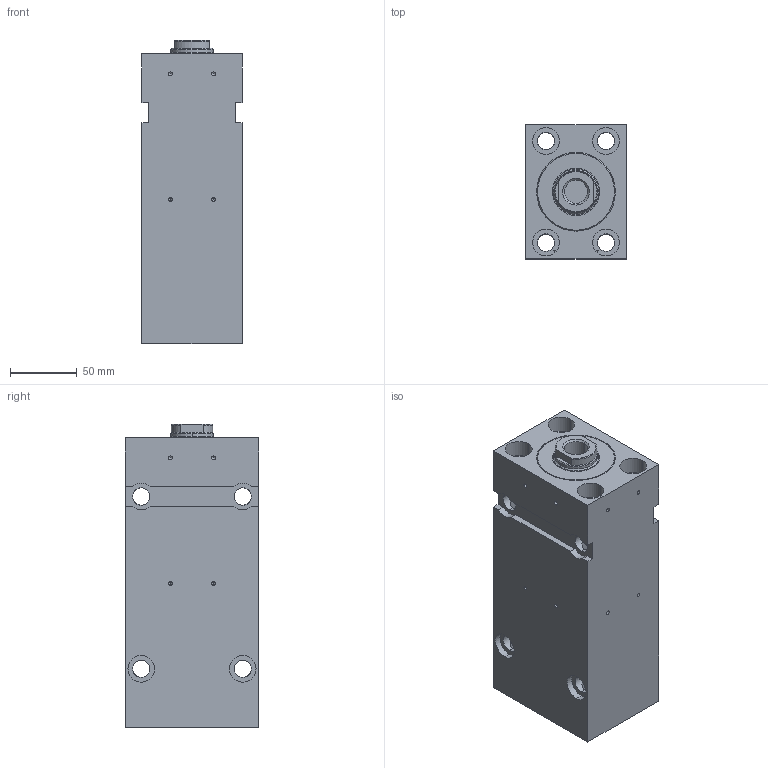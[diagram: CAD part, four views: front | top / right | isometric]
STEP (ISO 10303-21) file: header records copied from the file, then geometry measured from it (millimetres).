
FILE_DESCRIPTION (( 'STEP AP203' ), '1' );
FILE_NAME ('BZ_320.50_32.78.201.120 PP.KBC44__DH_0_.STEP', '2022-05-09T16:44:23', ( '' ), ( '' ), 'SwSTEP 2.0', 'SolidWorks 2020', '' );
FILE_SCHEMA (( 'CONFIG_CONTROL_DESIGN' ));
Length unit declared in the file: millimetre
Products named in the file (7): _Verschraubung komplett mit Dichtung f. BZ_RZ_FZ.50_32.201, Art.-Nr._ 042986(201)^BZ_320.50_32.78.201.120 PP.KBC44__DH_0_(2)_BZ_320.50_32.78.201.120 PP.KBC44__DH_0_; BZ_320.50_32.78.201.120 PP.KBC44__DH_0_; _Dichtungssatz f. BZ_RZ_FZ.50_32.xx.201.120 Artikelnr._ 053426(0)^BZ_320.50_32.78.201.120 PP.KBC44__DH_0_(2)_BZ_320.50_32.78.201.120 PP.KBC44__DH_0_; _Verschraubung hinten komplett mit Dichtung f. BZ500.50_32 LLL^BZ_320.50_32.78.201.120 PP.KBC44__DH_0_(2)_BZ_320.50_32.78.201.120 PP.KBC44__DH_0_; _Kolbenstange komplett f. BZ_RZ_FZ.50_32.xx.201.120(0_11 1 20 2.5 0 0 10 30 0 0 0)0^BZ_320.50_32.78.201.120 PP.KBC44__DH_0_(2)_BZ_320.50_32.78.201.120 PP.KBC44__DH_0_; _Gehaeuse f. BZ320.50_32.Fehler in IDBF.201.120Fehler in IDNT00(1344frei278000))7^BZ_320.50_32.78.201.120 PP.KBC44__DH_0_(2)_BZ_320.50_32.78.201.120 PP.KBC44__DH_0_; BZ_320.50_32.78.201.120 PP.KBC44__DH_0_(2)^BZ_320.50_32.78.201.120 PP.KBC44__DH_0_
Assembly tree (6 placements, depth 3):
  BZ_320.50_32.78.201.120 PP.KBC44__DH_0_
    BZ_320.50_32.78.201.120 PP.KBC44__DH_0_(2)^BZ_320.50_32.78.201.120 PP.KBC44__DH_0_
      _Gehaeuse f. BZ320.50_32.Fehler in IDBF.201.120Fehler in IDNT00(1344frei278000))7^BZ_320.50_32.78.201.120 PP.KBC44__DH_0_(2)_BZ_320.50_32.78.201.120 PP.KBC44__DH_0_
      _Verschraubung hinten komplett mit Dichtung f. BZ500.50_32 LLL^BZ_320.50_32.78.201.120 PP.KBC44__DH_0_(2)_BZ_320.50_32.78.201.120 PP.KBC44__DH_0_
      _Verschraubung komplett mit Dichtung f. BZ_RZ_FZ.50_32.201, Art.-Nr._ 042986(201)^BZ_320.50_32.78.201.120 PP.KBC44__DH_0_(2)_BZ_320.50_32.78.201.120 PP.KBC44__DH_0_
      _Dichtungssatz f. BZ_RZ_FZ.50_32.xx.201.120 Artikelnr._ 053426(0)^BZ_320.50_32.78.201.120 PP.KBC44__DH_0_(2)_BZ_320.50_32.78.201.120 PP.KBC44__DH_0_
      _Kolbenstange komplett f. BZ_RZ_FZ.50_32.xx.201.120(0_11 1 20 2.5 0 0 10 30 0 0 0)0^BZ_320.50_32.78.201.120 PP.KBC44__DH_0_(2)_BZ_320.50_32.78.201.120 PP.KBC44__DH_0_
Bounding box: 75 x 100 x 227 mm (x, y, z)
Volume: 1302531.9 mm3; surface area: 222222.9 mm2
Topology: 5 solids, 5 shells, 245 faces, 596 edges, 355 vertices
Faces by surface type: cylinder 150, plane 57, cone 38
Entity records: 8043 total; most frequent: CARTESIAN_POINT 1622, DIRECTION 1258, ORIENTED_EDGE 1144, EDGE_CURVE 572, AXIS2_PLACEMENT_3D 503, VERTEX_POINT 355, EDGE_LOOP 305, VECTOR 252
